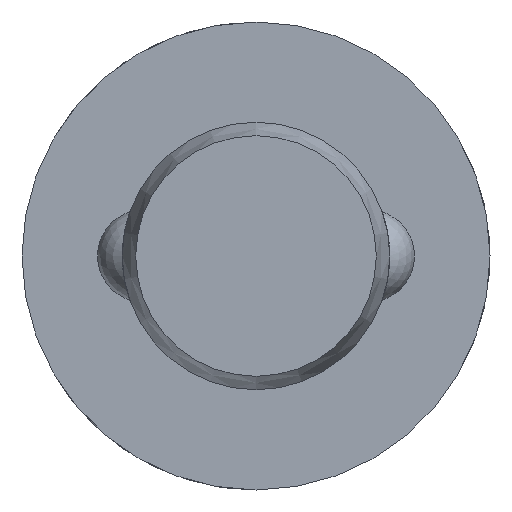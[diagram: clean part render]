
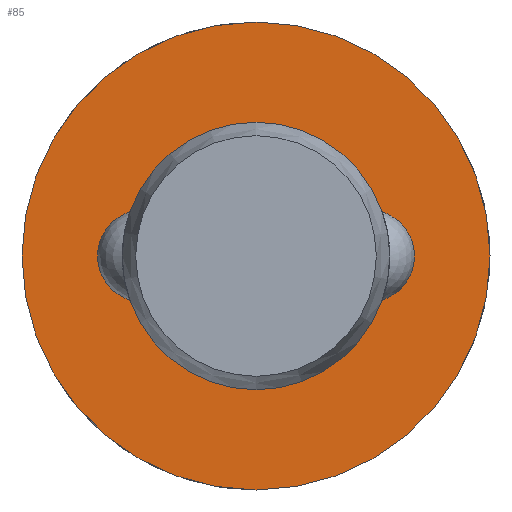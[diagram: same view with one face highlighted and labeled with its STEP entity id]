
A CAD part, left-side view. The second image highlights one B-rep face of the part: STEP entity #85.
In plain terms, the highlighted planar face has unit normal (-1, 0, 0).
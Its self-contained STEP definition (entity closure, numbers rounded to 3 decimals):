
#85 = ADVANCED_FACE( '', ( #130, #131 ), #132, .F. );
#130 = FACE_OUTER_BOUND( '', #200, .T. );
#131 = FACE_BOUND( '', #201, .T. );
#132 = PLANE( '', #202 );
#200 = EDGE_LOOP( '', ( #315 ) );
#201 = EDGE_LOOP( '', ( #316 ) );
#202 = AXIS2_PLACEMENT_3D( '', #317, #318, #319 );
#315 = ORIENTED_EDGE( '', *, *, #458, .F. );
#316 = ORIENTED_EDGE( '', *, *, #455, .T. );
#317 = CARTESIAN_POINT( '', ( 48.2, 4., 0. ) );
#318 = DIRECTION( '', ( 1., 0., 0. ) );
#319 = DIRECTION( '', ( 0., 0., -1. ) );
#455 = EDGE_CURVE( '', #528, #528, #529, .T. );
#458 = EDGE_CURVE( '', #534, #534, #535, .T. );
#528 = VERTEX_POINT( '', #732 );
#529 = CIRCLE( '', #733, 4. );
#534 = VERTEX_POINT( '', #820 );
#535 = CIRCLE( '', #821, 7. );
#732 = CARTESIAN_POINT( '', ( 48.2, 0., -4. ) );
#733 = AXIS2_PLACEMENT_3D( '', #898, #899, #900 );
#820 = CARTESIAN_POINT( '', ( 48.2, 0., -7. ) );
#821 = AXIS2_PLACEMENT_3D( '', #901, #902, #903 );
#898 = CARTESIAN_POINT( '', ( 48.2, 0., 0. ) );
#899 = DIRECTION( '', ( 1., 0., 0. ) );
#900 = DIRECTION( '', ( 0., 0., -1. ) );
#901 = CARTESIAN_POINT( '', ( 48.2, 0., 0. ) );
#902 = DIRECTION( '', ( 1., 0., 0. ) );
#903 = DIRECTION( '', ( 0., 0., -1. ) );
